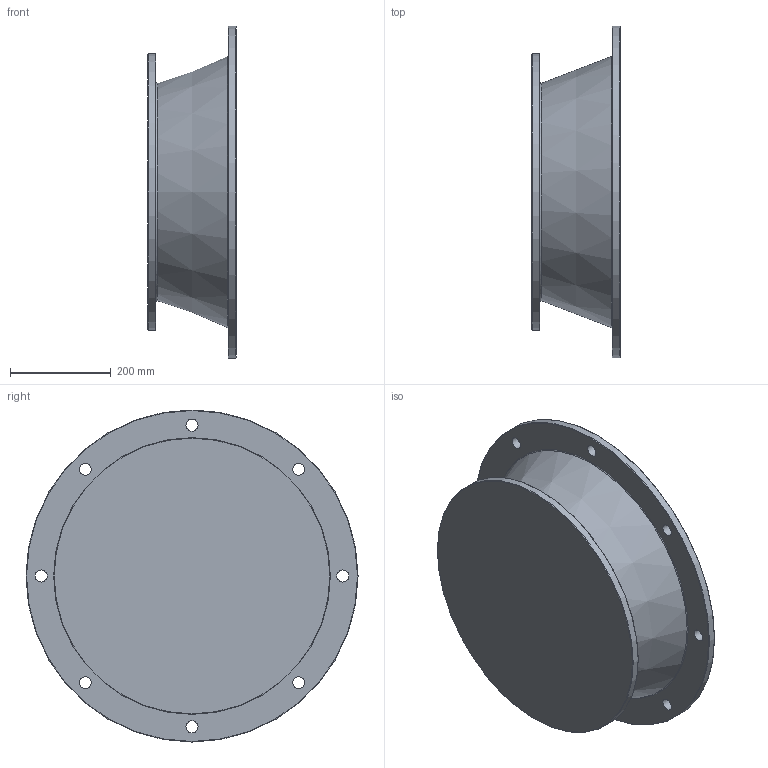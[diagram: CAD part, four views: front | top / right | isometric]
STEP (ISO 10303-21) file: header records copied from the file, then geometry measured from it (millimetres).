
FILE_DESCRIPTION((''),'2;1');
FILE_NAME('D:\PAWEŁ\ZLECENIA\2011 DualSystem\Przekładnie DR\DR160\STEP\315_B5_L175,5.stp','2012-06-11T13:01:55',('admin'),(''),'Autodesk Inventor 2009','Autodesk Inventor 2009','');
FILE_SCHEMA(('AUTOMOTIVE_DESIGN { 1 0 10303 214 1 1 1 1 }'));
Length unit declared in the file: millimetre
Products named in the file (1): 315_B5_L175,5
Bounding box: 175.5 x 660 x 660 mm (x, y, z)
Volume: 7648689.1 mm3; surface area: 1321135.8 mm2
Topology: 1 solids, 1 shells, 34 faces, 78 edges, 52 vertices
Faces by surface type: plane 11, bspline 10, cylinder 6, torus 5, cone 2
Full cylindrical faces by diameter (mm): 97 x1, 527.149 x1, 540 x1, 550 x1, 660 x1
Entity records: 1083 total; most frequent: CARTESIAN_POINT 369, DIRECTION 136, ORIENTED_EDGE 96, EDGE_LOOP 78, AXIS2_PLACEMENT_3D 63, EDGE_CURVE 48, VERTEX_POINT 44, FACE_BOUND 44
